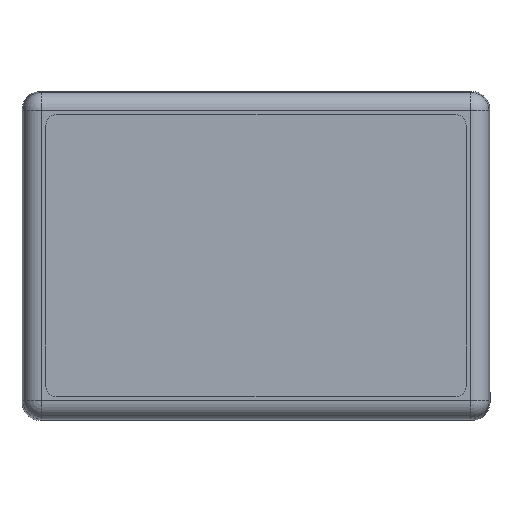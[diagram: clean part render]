
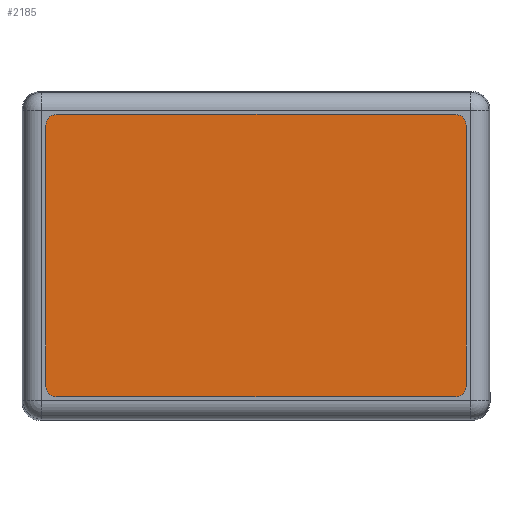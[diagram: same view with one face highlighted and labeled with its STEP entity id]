
A CAD part, top view. The second image highlights one B-rep face of the part: STEP entity #2185.
In plain terms, the highlighted planar face has unit normal (0, 0, 1).
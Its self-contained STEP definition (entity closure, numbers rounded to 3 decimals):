
#139=PLANE($,#2352);
#305=LINE($,#3410,#535);
#309=LINE($,#3422,#539);
#313=LINE($,#3434,#543);
#317=LINE($,#3445,#547);
#535=VECTOR($,#2758,36.);
#539=VECTOR($,#2770,55.);
#543=VECTOR($,#2782,36.);
#547=VECTOR($,#2794,55.);
#744=FACE_OUTER_BOUND($,#868,.T.);
#868=EDGE_LOOP($,(#1805,#1806,#1807,#1808,#1809,#1810,#1811,#1812));
#987=CIRCLE($,#2338,1.5);
#989=CIRCLE($,#2342,1.5);
#991=CIRCLE($,#2346,1.5);
#993=CIRCLE($,#2350,1.5);
#1114=VERTEX_POINT($,#3400);
#1115=VERTEX_POINT($,#3401);
#1118=VERTEX_POINT($,#3409);
#1120=VERTEX_POINT($,#3415);
#1122=VERTEX_POINT($,#3421);
#1124=VERTEX_POINT($,#3427);
#1126=VERTEX_POINT($,#3433);
#1128=VERTEX_POINT($,#3439);
#1370=EDGE_CURVE($,#1114,#1115,#987,.T.);
#1374=EDGE_CURVE($,#1118,#1114,#305,.T.);
#1377=EDGE_CURVE($,#1120,#1118,#989,.T.);
#1380=EDGE_CURVE($,#1122,#1120,#309,.T.);
#1383=EDGE_CURVE($,#1124,#1122,#991,.T.);
#1386=EDGE_CURVE($,#1126,#1124,#313,.T.);
#1389=EDGE_CURVE($,#1128,#1126,#993,.T.);
#1392=EDGE_CURVE($,#1115,#1128,#317,.T.);
#1805=ORIENTED_EDGE($,*,*,#1370,.T.);
#1806=ORIENTED_EDGE($,*,*,#1392,.T.);
#1807=ORIENTED_EDGE($,*,*,#1389,.T.);
#1808=ORIENTED_EDGE($,*,*,#1386,.T.);
#1809=ORIENTED_EDGE($,*,*,#1383,.T.);
#1810=ORIENTED_EDGE($,*,*,#1380,.T.);
#1811=ORIENTED_EDGE($,*,*,#1377,.T.);
#1812=ORIENTED_EDGE($,*,*,#1374,.T.);
#2185=ADVANCED_FACE($,(#744),#139,.T.);
#2338=AXIS2_PLACEMENT_3D($,#3402,#2750,#2751);
#2342=AXIS2_PLACEMENT_3D($,#3416,#2763,#2764);
#2346=AXIS2_PLACEMENT_3D($,#3428,#2775,#2776);
#2350=AXIS2_PLACEMENT_3D($,#3440,#2787,#2788);
#2352=AXIS2_PLACEMENT_3D($,#3444,#2792,#2793);
#2750=DIRECTION('center_axis',(0.,0.,
1.));
#2751=DIRECTION('ref_axis',(0.707,0.707,0.));
#2758=DIRECTION($,(0.,1.,0.));
#2763=DIRECTION('center_axis',(0.,0.,
1.));
#2764=DIRECTION('ref_axis',(0.707,-0.707,0.));
#2770=DIRECTION($,(1.,0.,0.));
#2775=DIRECTION('center_axis',(0.,0.,
1.));
#2776=DIRECTION('ref_axis',(-0.707,-0.707,0.));
#2782=DIRECTION($,(0.,-1.,0.));
#2787=DIRECTION('center_axis',(0.,0.,
1.));
#2788=DIRECTION('ref_axis',(-0.707,0.707,0.));
#2792=DIRECTION('center_axis',(0.,0.,
1.));
#2793=DIRECTION('ref_axis',(1.,0.,0.));
#2794=DIRECTION($,(-1.,0.,0.));
#3400=CARTESIAN_POINT('',(61.3,40.7,21.8));
#3401=CARTESIAN_POINT('',(59.8,42.2,21.8));
#3402=CARTESIAN_POINT('Origin',(59.8,40.7,21.8));
#3409=CARTESIAN_POINT('',(61.3,4.7,21.8));
#3410=CARTESIAN_POINT($,(61.3,42.2,21.8));
#3415=CARTESIAN_POINT('',(59.8,3.2,21.8));
#3416=CARTESIAN_POINT('Origin',(59.8,4.7,21.8));
#3421=CARTESIAN_POINT('',(4.8,3.2,21.8));
#3422=CARTESIAN_POINT($,(61.3,3.2,21.8));
#3427=CARTESIAN_POINT('',(3.3,4.7,21.8));
#3428=CARTESIAN_POINT('Origin',(4.8,4.7,21.8));
#3433=CARTESIAN_POINT('',(3.3,40.7,21.8));
#3434=CARTESIAN_POINT($,(3.3,3.2,21.8));
#3439=CARTESIAN_POINT('',(4.8,42.2,21.8));
#3440=CARTESIAN_POINT('Origin',(4.8,40.7,21.8));
#3444=CARTESIAN_POINT('Origin',(32.3,22.7,21.8));
#3445=CARTESIAN_POINT($,(3.3,42.2,21.8));
